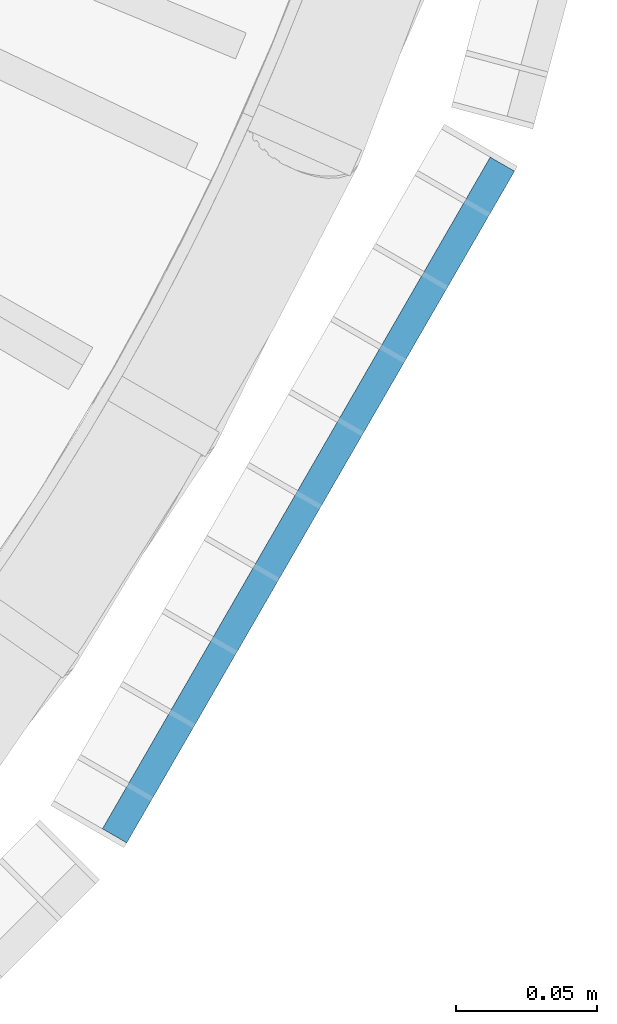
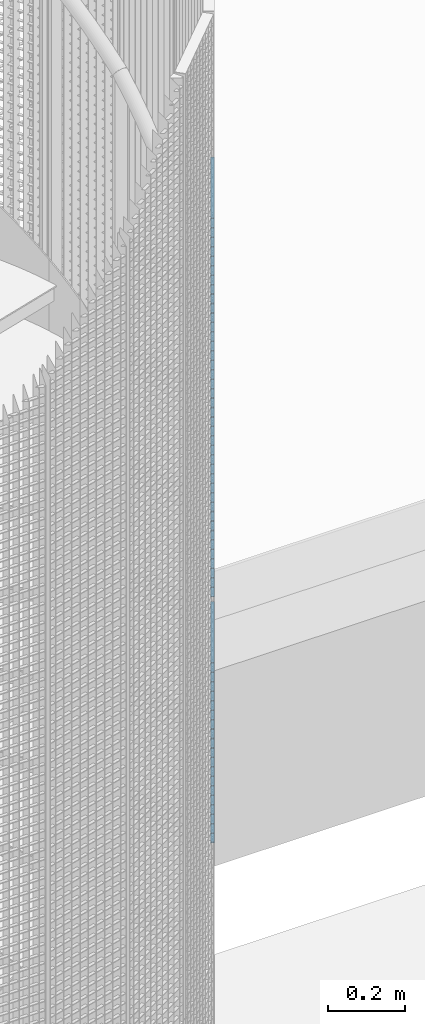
# One storey, part 222 of 1148: 61 beams, 1 element without a shape of its own.
"""IFC2X3 building model written with IfcOpenShell, lengths in millimetres."""

from ifc_helpers import new_model, si_unit, frame, origin_with_axes, origin_2d_with_axis, place, context, subcontext, project, spatial, rectangle, extrude, material, type_object, element, aggregate, save


model = new_model("IFC2X3")

# Units and contexts
model_context = context("Model", 3, precision=1e-05, world=origin_with_axes())
body_context = subcontext(model_context, "Body", "Model", "MODEL_VIEW")
ifc_project = project(units=[si_unit("LENGTHUNIT", "METRE", prefix="MILLI"), si_unit("AREAUNIT", "SQUARE_METRE"), si_unit("VOLUMEUNIT", "CUBIC_METRE"), si_unit("MASSUNIT", "GRAM", prefix="KILO"), si_unit("TIMEUNIT", "SECOND"), si_unit("PLANEANGLEUNIT", "RADIAN"), si_unit("SOLIDANGLEUNIT", "STERADIAN"), si_unit("THERMODYNAMICTEMPERATUREUNIT", "DEGREE_CELSIUS"), si_unit("LUMINOUSINTENSITYUNIT", "LUMEN")], contexts=[model_context])

# Site, building, storey
site_placement = place(None, origin_with_axes())
site = spatial("IfcSite", under=ifc_project, at=site_placement, Name="Undefined", CompositionType="ELEMENT")
building_placement = place(site_placement, origin_with_axes())
building = spatial("IfcBuilding", under=site, at=building_placement, Name="Undefined", CompositionType="ELEMENT")
storey_placement = place(building_placement, origin_with_axes())
storey = spatial("IfcBuildingStorey", under=building, at=storey_placement, Name="Undefined", CompositionType="ELEMENT", Elevation=0.0)

# Assembly, beams
assembly_placement = place(storey_placement, origin_with_axes())
assembly = element("IfcElementAssembly", 1, at=assembly_placement, inside=storey, Name="BORDURE", AssemblyPlace="NOTDEFINED", PredefinedType="NOTDEFINED")
ifc_material = material(Name="STEEL/S235JR")
beam_type = type_object("IfcBeamType", Name="PL2*10", PredefinedType="NOTDEFINED")
beam_1_placement = place(assembly_placement, frame((895.303964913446, -676.248044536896, 17340.0), z_axis=(0.866025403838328, -0.49999999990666, 0.0), x_axis=(0.49999999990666, 0.866025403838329, 0.0)))
beam_1 = element("IfcBeam", 2, at=beam_1_placement, type_object=beam_type, material=ifc_material, Name="ENTRETOISE", context=body_context, shape_type="SweptSolid", body=[
    extrude(rectangle(XDim=2.0, YDim=10.0, at=origin_2d_with_axis()), frame((275.999999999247, 9.09494701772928e-13, 1.53210777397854e-14), z_axis=(-1.0, 0.0, 0.0), x_axis=(0.0, -1.0, 0.0)), (0.0, 0.0, 1.0), 276.0),
])
beam_2_placement = place(assembly_placement, frame((895.303964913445, -676.248044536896, 17310.0), z_axis=(0.866025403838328, -0.49999999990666, 0.0), x_axis=(0.49999999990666, 0.866025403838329, 0.0)))
beam_2 = element("IfcBeam", 3, at=beam_2_placement, type_object=beam_type, material=ifc_material, Name="ENTRETOISE", context=body_context, shape_type="SweptSolid", body=[
    extrude(rectangle(XDim=2.0, YDim=10.0, at=origin_2d_with_axis()), frame((275.999999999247, 9.09494701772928e-13, 1.53210777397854e-14), z_axis=(-1.0, 0.0, 0.0), x_axis=(0.0, -1.0, 0.0)), (0.0, 0.0, 1.0), 276.0),
])
beam_3_placement = place(assembly_placement, frame((895.303964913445, -676.248044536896, 17280.0), z_axis=(0.866025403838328, -0.49999999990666, 0.0), x_axis=(0.49999999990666, 0.866025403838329, 0.0)))
beam_3 = element("IfcBeam", 4, at=beam_3_placement, type_object=beam_type, material=ifc_material, Name="ENTRETOISE", context=body_context, shape_type="SweptSolid", body=[
    extrude(rectangle(XDim=2.0, YDim=10.0, at=origin_2d_with_axis()), frame((275.999999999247, 9.09494701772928e-13, 1.53210777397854e-14), z_axis=(-1.0, 0.0, 0.0), x_axis=(0.0, -1.0, 0.0)), (0.0, 0.0, 1.0), 276.0),
])
beam_4_placement = place(assembly_placement, frame((895.303964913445, -676.248044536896, 17250.0), z_axis=(0.866025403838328, -0.49999999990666, 0.0), x_axis=(0.49999999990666, 0.866025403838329, 0.0)))
beam_4 = element("IfcBeam", 5, at=beam_4_placement, type_object=beam_type, material=ifc_material, Name="ENTRETOISE", context=body_context, shape_type="SweptSolid", body=[
    extrude(rectangle(XDim=2.0, YDim=10.0, at=origin_2d_with_axis()), frame((275.999999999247, 9.09494701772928e-13, 1.53210777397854e-14), z_axis=(-1.0, 0.0, 0.0), x_axis=(0.0, -1.0, 0.0)), (0.0, 0.0, 1.0), 276.0),
])
beam_5_placement = place(assembly_placement, frame((895.303964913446, -676.248044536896, 17220.0), z_axis=(0.866025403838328, -0.49999999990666, 0.0), x_axis=(0.49999999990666, 0.866025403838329, 0.0)))
beam_5 = element("IfcBeam", 6, at=beam_5_placement, type_object=beam_type, material=ifc_material, Name="ENTRETOISE", context=body_context, shape_type="SweptSolid", body=[
    extrude(rectangle(XDim=2.0, YDim=10.0, at=origin_2d_with_axis()), frame((275.999999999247, 9.09494701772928e-13, 1.53210777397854e-14), z_axis=(-1.0, 0.0, 0.0), x_axis=(0.0, -1.0, 0.0)), (0.0, 0.0, 1.0), 276.0),
])
beam_6_placement = place(assembly_placement, frame((895.303964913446, -676.248044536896, 17190.0), z_axis=(0.866025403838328, -0.49999999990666, 0.0), x_axis=(0.49999999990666, 0.866025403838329, 0.0)))
beam_6 = element("IfcBeam", 7, at=beam_6_placement, type_object=beam_type, material=ifc_material, Name="ENTRETOISE", context=body_context, shape_type="SweptSolid", body=[
    extrude(rectangle(XDim=2.0, YDim=10.0, at=origin_2d_with_axis()), frame((275.999999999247, 9.09494701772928e-13, 1.53210777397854e-14), z_axis=(-1.0, 0.0, 0.0), x_axis=(0.0, -1.0, 0.0)), (0.0, 0.0, 1.0), 276.0),
])
beam_7_placement = place(assembly_placement, frame((895.303964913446, -676.248044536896, 17160.0), z_axis=(0.866025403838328, -0.49999999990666, 0.0), x_axis=(0.49999999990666, 0.866025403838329, 0.0)))
beam_7 = element("IfcBeam", 8, at=beam_7_placement, type_object=beam_type, material=ifc_material, Name="ENTRETOISE", context=body_context, shape_type="SweptSolid", body=[
    extrude(rectangle(XDim=2.0, YDim=10.0, at=origin_2d_with_axis()), frame((275.999999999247, 9.09494701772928e-13, 1.53210777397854e-14), z_axis=(-1.0, 0.0, 0.0), x_axis=(0.0, -1.0, 0.0)), (0.0, 0.0, 1.0), 276.0),
])
beam_8_placement = place(assembly_placement, frame((895.303964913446, -676.248044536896, 17130.0), z_axis=(0.866025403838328, -0.49999999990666, 0.0), x_axis=(0.49999999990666, 0.866025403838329, 0.0)))
beam_8 = element("IfcBeam", 9, at=beam_8_placement, type_object=beam_type, material=ifc_material, Name="ENTRETOISE", context=body_context, shape_type="SweptSolid", body=[
    extrude(rectangle(XDim=2.0, YDim=10.0, at=origin_2d_with_axis()), frame((275.999999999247, 9.09494701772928e-13, 1.53210777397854e-14), z_axis=(-1.0, 0.0, 0.0), x_axis=(0.0, -1.0, 0.0)), (0.0, 0.0, 1.0), 276.0),
])
beam_9_placement = place(assembly_placement, frame((895.303964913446, -676.248044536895, 17100.0), z_axis=(0.866025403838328, -0.49999999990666, 0.0), x_axis=(0.49999999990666, 0.866025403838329, 0.0)))
beam_9 = element("IfcBeam", 10, at=beam_9_placement, type_object=beam_type, material=ifc_material, Name="ENTRETOISE", context=body_context, shape_type="SweptSolid", body=[
    extrude(rectangle(XDim=2.0, YDim=10.0, at=origin_2d_with_axis()), frame((275.999999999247, 9.09494701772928e-13, 1.53210777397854e-14), z_axis=(-1.0, 0.0, 0.0), x_axis=(0.0, -1.0, 0.0)), (0.0, 0.0, 1.0), 276.0),
])
beam_10_placement = place(assembly_placement, frame((895.303964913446, -676.248044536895, 17070.0), z_axis=(0.866025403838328, -0.49999999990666, 0.0), x_axis=(0.49999999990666, 0.866025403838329, 0.0)))
beam_10 = element("IfcBeam", 11, at=beam_10_placement, type_object=beam_type, material=ifc_material, Name="ENTRETOISE", context=body_context, shape_type="SweptSolid", body=[
    extrude(rectangle(XDim=2.0, YDim=10.0, at=origin_2d_with_axis()), frame((275.999999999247, 9.09494701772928e-13, 1.53210777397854e-14), z_axis=(-1.0, 0.0, 0.0), x_axis=(0.0, -1.0, 0.0)), (0.0, 0.0, 1.0), 276.0),
])
beam_11_placement = place(assembly_placement, frame((895.303964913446, -676.248044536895, 17040.0), z_axis=(0.866025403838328, -0.49999999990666, 0.0), x_axis=(0.49999999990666, 0.866025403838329, 0.0)))
beam_11 = element("IfcBeam", 12, at=beam_11_placement, type_object=beam_type, material=ifc_material, Name="ENTRETOISE", context=body_context, shape_type="SweptSolid", body=[
    extrude(rectangle(XDim=2.0, YDim=10.0, at=origin_2d_with_axis()), frame((275.999999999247, 9.09494701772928e-13, 1.53210777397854e-14), z_axis=(-1.0, 0.0, 0.0), x_axis=(0.0, -1.0, 0.0)), (0.0, 0.0, 1.0), 276.0),
])
beam_12_placement = place(assembly_placement, frame((895.303964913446, -676.248044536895, 17010.0), z_axis=(0.866025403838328, -0.49999999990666, 0.0), x_axis=(0.49999999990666, 0.866025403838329, 0.0)))
beam_12 = element("IfcBeam", 13, at=beam_12_placement, type_object=beam_type, material=ifc_material, Name="ENTRETOISE", context=body_context, shape_type="SweptSolid", body=[
    extrude(rectangle(XDim=2.0, YDim=10.0, at=origin_2d_with_axis()), frame((275.999999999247, 9.09494701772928e-13, 1.53210777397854e-14), z_axis=(-1.0, 0.0, 0.0), x_axis=(0.0, -1.0, 0.0)), (0.0, 0.0, 1.0), 276.0),
])
beam_13_placement = place(assembly_placement, frame((895.303964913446, -676.248044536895, 16980.0), z_axis=(0.866025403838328, -0.49999999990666, 0.0), x_axis=(0.49999999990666, 0.866025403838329, 0.0)))
beam_13 = element("IfcBeam", 14, at=beam_13_placement, type_object=beam_type, material=ifc_material, Name="ENTRETOISE", context=body_context, shape_type="SweptSolid", body=[
    extrude(rectangle(XDim=2.0, YDim=10.0, at=origin_2d_with_axis()), frame((275.999999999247, 9.09494701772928e-13, 1.53210777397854e-14), z_axis=(-1.0, 0.0, 0.0), x_axis=(0.0, -1.0, 0.0)), (0.0, 0.0, 1.0), 276.0),
])
beam_14_placement = place(assembly_placement, frame((895.303964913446, -676.248044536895, 16950.0), z_axis=(0.866025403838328, -0.49999999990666, 0.0), x_axis=(0.49999999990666, 0.866025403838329, 0.0)))
beam_14 = element("IfcBeam", 15, at=beam_14_placement, type_object=beam_type, material=ifc_material, Name="ENTRETOISE", context=body_context, shape_type="SweptSolid", body=[
    extrude(rectangle(XDim=2.0, YDim=10.0, at=origin_2d_with_axis()), frame((275.999999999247, 9.09494701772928e-13, 1.53210777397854e-14), z_axis=(-1.0, 0.0, 0.0), x_axis=(0.0, -1.0, 0.0)), (0.0, 0.0, 1.0), 276.0),
])
beam_15_placement = place(assembly_placement, frame((895.303964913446, -676.248044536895, 16920.0), z_axis=(0.866025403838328, -0.49999999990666, 0.0), x_axis=(0.49999999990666, 0.866025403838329, 0.0)))
beam_15 = element("IfcBeam", 16, at=beam_15_placement, type_object=beam_type, material=ifc_material, Name="ENTRETOISE", context=body_context, shape_type="SweptSolid", body=[
    extrude(rectangle(XDim=2.0, YDim=10.0, at=origin_2d_with_axis()), frame((275.999999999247, 9.09494701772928e-13, 1.53210777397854e-14), z_axis=(-1.0, 0.0, 0.0), x_axis=(0.0, -1.0, 0.0)), (0.0, 0.0, 1.0), 276.0),
])
beam_16_placement = place(assembly_placement, frame((895.303964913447, -676.248044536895, 16890.0), z_axis=(0.866025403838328, -0.49999999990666, 0.0), x_axis=(0.49999999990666, 0.866025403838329, 0.0)))
beam_16 = element("IfcBeam", 17, at=beam_16_placement, type_object=beam_type, material=ifc_material, Name="ENTRETOISE", context=body_context, shape_type="SweptSolid", body=[
    extrude(rectangle(XDim=2.0, YDim=10.0, at=origin_2d_with_axis()), frame((275.999999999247, 9.09494701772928e-13, 1.53210777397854e-14), z_axis=(-1.0, 0.0, 0.0), x_axis=(0.0, -1.0, 0.0)), (0.0, 0.0, 1.0), 276.0),
])
beam_17_placement = place(assembly_placement, frame((895.303964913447, -676.248044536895, 16860.0), z_axis=(0.866025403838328, -0.49999999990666, 0.0), x_axis=(0.49999999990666, 0.866025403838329, 0.0)))
beam_17 = element("IfcBeam", 18, at=beam_17_placement, type_object=beam_type, material=ifc_material, Name="ENTRETOISE", context=body_context, shape_type="SweptSolid", body=[
    extrude(rectangle(XDim=2.0, YDim=10.0, at=origin_2d_with_axis()), frame((275.999999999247, 9.09494701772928e-13, 1.53210777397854e-14), z_axis=(-1.0, 0.0, 0.0), x_axis=(0.0, -1.0, 0.0)), (0.0, 0.0, 1.0), 276.0),
])
beam_18_placement = place(assembly_placement, frame((895.303964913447, -676.248044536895, 16830.0), z_axis=(0.866025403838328, -0.49999999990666, 0.0), x_axis=(0.49999999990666, 0.866025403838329, 0.0)))
beam_18 = element("IfcBeam", 19, at=beam_18_placement, type_object=beam_type, material=ifc_material, Name="ENTRETOISE", context=body_context, shape_type="SweptSolid", body=[
    extrude(rectangle(XDim=2.0, YDim=10.0, at=origin_2d_with_axis()), frame((275.999999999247, 9.09494701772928e-13, 1.53210777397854e-14), z_axis=(-1.0, 0.0, 0.0), x_axis=(0.0, -1.0, 0.0)), (0.0, 0.0, 1.0), 276.0),
])
beam_19_placement = place(assembly_placement, frame((895.303964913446, -676.248044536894, 16800.0), z_axis=(0.866025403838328, -0.49999999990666, 0.0), x_axis=(0.49999999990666, 0.866025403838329, 0.0)))
beam_19 = element("IfcBeam", 20, at=beam_19_placement, type_object=beam_type, material=ifc_material, Name="ENTRETOISE", context=body_context, shape_type="SweptSolid", body=[
    extrude(rectangle(XDim=2.0, YDim=10.0, at=origin_2d_with_axis()), frame((275.999999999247, 9.09494701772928e-13, 1.53210777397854e-14), z_axis=(-1.0, 0.0, 0.0), x_axis=(0.0, -1.0, 0.0)), (0.0, 0.0, 1.0), 276.0),
])
beam_20_placement = place(assembly_placement, frame((895.303964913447, -676.248044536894, 16770.0), z_axis=(0.866025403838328, -0.49999999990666, 0.0), x_axis=(0.49999999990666, 0.866025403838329, 0.0)))
beam_20 = element("IfcBeam", 21, at=beam_20_placement, type_object=beam_type, material=ifc_material, Name="ENTRETOISE", context=body_context, shape_type="SweptSolid", body=[
    extrude(rectangle(XDim=2.0, YDim=10.0, at=origin_2d_with_axis()), frame((275.999999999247, 9.09494701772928e-13, 1.53210777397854e-14), z_axis=(-1.0, 0.0, 0.0), x_axis=(0.0, -1.0, 0.0)), (0.0, 0.0, 1.0), 276.0),
])
beam_21_placement = place(assembly_placement, frame((895.303964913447, -676.248044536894, 16740.0), z_axis=(0.866025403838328, -0.49999999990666, 0.0), x_axis=(0.49999999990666, 0.866025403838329, 0.0)))
beam_21 = element("IfcBeam", 22, at=beam_21_placement, type_object=beam_type, material=ifc_material, Name="ENTRETOISE", context=body_context, shape_type="SweptSolid", body=[
    extrude(rectangle(XDim=2.0, YDim=10.0, at=origin_2d_with_axis()), frame((275.999999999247, 9.09494701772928e-13, 1.53210777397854e-14), z_axis=(-1.0, 0.0, 0.0), x_axis=(0.0, -1.0, 0.0)), (0.0, 0.0, 1.0), 276.0),
])
beam_22_placement = place(assembly_placement, frame((895.303964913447, -676.248044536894, 16710.0), z_axis=(0.866025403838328, -0.49999999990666, 0.0), x_axis=(0.49999999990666, 0.866025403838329, 0.0)))
beam_22 = element("IfcBeam", 23, at=beam_22_placement, type_object=beam_type, material=ifc_material, Name="ENTRETOISE", context=body_context, shape_type="SweptSolid", body=[
    extrude(rectangle(XDim=2.0, YDim=10.0, at=origin_2d_with_axis()), frame((275.999999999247, 9.09494701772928e-13, 1.53210777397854e-14), z_axis=(-1.0, 0.0, 0.0), x_axis=(0.0, -1.0, 0.0)), (0.0, 0.0, 1.0), 276.0),
])
beam_23_placement = place(assembly_placement, frame((895.303964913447, -676.248044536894, 16680.0), z_axis=(0.866025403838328, -0.49999999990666, 0.0), x_axis=(0.49999999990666, 0.866025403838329, 0.0)))
beam_23 = element("IfcBeam", 24, at=beam_23_placement, type_object=beam_type, material=ifc_material, Name="ENTRETOISE", context=body_context, shape_type="SweptSolid", body=[
    extrude(rectangle(XDim=2.0, YDim=10.0, at=origin_2d_with_axis()), frame((275.999999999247, 9.09494701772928e-13, 1.53210777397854e-14), z_axis=(-1.0, 0.0, 0.0), x_axis=(0.0, -1.0, 0.0)), (0.0, 0.0, 1.0), 276.0),
])
beam_24_placement = place(assembly_placement, frame((895.303964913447, -676.248044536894, 16650.0), z_axis=(0.866025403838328, -0.49999999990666, 0.0), x_axis=(0.49999999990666, 0.866025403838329, 0.0)))
beam_24 = element("IfcBeam", 25, at=beam_24_placement, type_object=beam_type, material=ifc_material, Name="ENTRETOISE", context=body_context, shape_type="SweptSolid", body=[
    extrude(rectangle(XDim=2.0, YDim=10.0, at=origin_2d_with_axis()), frame((275.999999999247, 9.09494701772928e-13, 1.53210777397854e-14), z_axis=(-1.0, 0.0, 0.0), x_axis=(0.0, -1.0, 0.0)), (0.0, 0.0, 1.0), 276.0),
])
beam_25_placement = place(assembly_placement, frame((895.303964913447, -676.248044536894, 16620.0), z_axis=(0.866025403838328, -0.49999999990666, 0.0), x_axis=(0.49999999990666, 0.866025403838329, 0.0)))
beam_25 = element("IfcBeam", 26, at=beam_25_placement, type_object=beam_type, material=ifc_material, Name="ENTRETOISE", context=body_context, shape_type="SweptSolid", body=[
    extrude(rectangle(XDim=2.0, YDim=10.0, at=origin_2d_with_axis()), frame((275.999999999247, 9.09494701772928e-13, 1.53210777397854e-14), z_axis=(-1.0, 0.0, 0.0), x_axis=(0.0, -1.0, 0.0)), (0.0, 0.0, 1.0), 276.0),
])
beam_26_placement = place(assembly_placement, frame((895.303964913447, -676.248044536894, 16590.0), z_axis=(0.866025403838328, -0.49999999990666, 0.0), x_axis=(0.49999999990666, 0.866025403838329, 0.0)))
beam_26 = element("IfcBeam", 27, at=beam_26_placement, type_object=beam_type, material=ifc_material, Name="ENTRETOISE", context=body_context, shape_type="SweptSolid", body=[
    extrude(rectangle(XDim=2.0, YDim=10.0, at=origin_2d_with_axis()), frame((275.999999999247, 9.09494701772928e-13, 1.53210777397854e-14), z_axis=(-1.0, 0.0, 0.0), x_axis=(0.0, -1.0, 0.0)), (0.0, 0.0, 1.0), 276.0),
])
beam_27_placement = place(assembly_placement, frame((895.303964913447, -676.248044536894, 16560.0), z_axis=(0.866025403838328, -0.49999999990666, 0.0), x_axis=(0.49999999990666, 0.866025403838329, 0.0)))
beam_27 = element("IfcBeam", 28, at=beam_27_placement, type_object=beam_type, material=ifc_material, Name="ENTRETOISE", context=body_context, shape_type="SweptSolid", body=[
    extrude(rectangle(XDim=2.0, YDim=10.0, at=origin_2d_with_axis()), frame((275.999999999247, 9.09494701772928e-13, 1.53210777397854e-14), z_axis=(-1.0, 0.0, 0.0), x_axis=(0.0, -1.0, 0.0)), (0.0, 0.0, 1.0), 276.0),
])
beam_28_placement = place(assembly_placement, frame((895.303964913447, -676.248044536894, 16530.0), z_axis=(0.866025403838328, -0.49999999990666, 0.0), x_axis=(0.49999999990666, 0.866025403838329, 0.0)))
beam_28 = element("IfcBeam", 29, at=beam_28_placement, type_object=beam_type, material=ifc_material, Name="ENTRETOISE", context=body_context, shape_type="SweptSolid", body=[
    extrude(rectangle(XDim=2.0, YDim=10.0, at=origin_2d_with_axis()), frame((275.999999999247, 9.09494701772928e-13, 1.53210777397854e-14), z_axis=(-1.0, 0.0, 0.0), x_axis=(0.0, -1.0, 0.0)), (0.0, 0.0, 1.0), 276.0),
])
beam_29_placement = place(assembly_placement, frame((895.303964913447, -676.248044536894, 16500.0), z_axis=(0.866025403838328, -0.49999999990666, 0.0), x_axis=(0.49999999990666, 0.866025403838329, 0.0)))
beam_29 = element("IfcBeam", 30, at=beam_29_placement, type_object=beam_type, material=ifc_material, Name="ENTRETOISE", context=body_context, shape_type="SweptSolid", body=[
    extrude(rectangle(XDim=2.0, YDim=10.0, at=origin_2d_with_axis()), frame((275.999999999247, 9.09494701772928e-13, 1.53210777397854e-14), z_axis=(-1.0, 0.0, 0.0), x_axis=(0.0, -1.0, 0.0)), (0.0, 0.0, 1.0), 276.0),
])
beam_30_placement = place(assembly_placement, frame((895.303964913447, -676.248044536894, 16470.0), z_axis=(0.866025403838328, -0.49999999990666, 0.0), x_axis=(0.49999999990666, 0.866025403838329, 0.0)))
beam_30 = element("IfcBeam", 31, at=beam_30_placement, type_object=beam_type, material=ifc_material, Name="ENTRETOISE", context=body_context, shape_type="SweptSolid", body=[
    extrude(rectangle(XDim=2.0, YDim=10.0, at=origin_2d_with_axis()), frame((275.999999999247, 9.09494701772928e-13, 1.53210777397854e-14), z_axis=(-1.0, 0.0, 0.0), x_axis=(0.0, -1.0, 0.0)), (0.0, 0.0, 1.0), 276.0),
])
beam_31_placement = place(assembly_placement, frame((895.303964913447, -676.248044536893, 16440.0), z_axis=(0.866025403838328, -0.49999999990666, 0.0), x_axis=(0.49999999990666, 0.866025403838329, 0.0)))
beam_31 = element("IfcBeam", 32, at=beam_31_placement, type_object=beam_type, material=ifc_material, Name="ENTRETOISE", context=body_context, shape_type="SweptSolid", body=[
    extrude(rectangle(XDim=2.0, YDim=10.0, at=origin_2d_with_axis()), frame((275.999999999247, 9.09494701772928e-13, 1.53210777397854e-14), z_axis=(-1.0, 0.0, 0.0), x_axis=(0.0, -1.0, 0.0)), (0.0, 0.0, 1.0), 276.0),
])
beam_32_placement = place(assembly_placement, frame((895.303964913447, -676.248044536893, 16410.0), z_axis=(0.866025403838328, -0.49999999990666, 0.0), x_axis=(0.49999999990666, 0.866025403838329, 0.0)))
beam_32 = element("IfcBeam", 33, at=beam_32_placement, type_object=beam_type, material=ifc_material, Name="ENTRETOISE", context=body_context, shape_type="SweptSolid", body=[
    extrude(rectangle(XDim=2.0, YDim=10.0, at=origin_2d_with_axis()), frame((275.999999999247, 9.09494701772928e-13, 1.53210777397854e-14), z_axis=(-1.0, 0.0, 0.0), x_axis=(0.0, -1.0, 0.0)), (0.0, 0.0, 1.0), 276.0),
])
beam_33_placement = place(assembly_placement, frame((895.303964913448, -676.248044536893, 16380.0), z_axis=(0.866025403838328, -0.49999999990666, 0.0), x_axis=(0.49999999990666, 0.866025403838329, 0.0)))
beam_33 = element("IfcBeam", 34, at=beam_33_placement, type_object=beam_type, material=ifc_material, Name="ENTRETOISE", context=body_context, shape_type="SweptSolid", body=[
    extrude(rectangle(XDim=2.0, YDim=10.0, at=origin_2d_with_axis()), frame((275.999999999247, 9.09494701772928e-13, 1.53210777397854e-14), z_axis=(-1.0, 0.0, 0.0), x_axis=(0.0, -1.0, 0.0)), (0.0, 0.0, 1.0), 276.0),
])
beam_34_placement = place(assembly_placement, frame((895.303964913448, -676.248044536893, 16350.0), z_axis=(0.866025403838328, -0.49999999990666, 0.0), x_axis=(0.49999999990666, 0.866025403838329, 0.0)))
beam_34 = element("IfcBeam", 35, at=beam_34_placement, type_object=beam_type, material=ifc_material, Name="ENTRETOISE", context=body_context, shape_type="SweptSolid", body=[
    extrude(rectangle(XDim=2.0, YDim=10.0, at=origin_2d_with_axis()), frame((275.999999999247, 9.09494701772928e-13, 1.53210777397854e-14), z_axis=(-1.0, 0.0, 0.0), x_axis=(0.0, -1.0, 0.0)), (0.0, 0.0, 1.0), 276.0),
])
beam_35_placement = place(assembly_placement, frame((895.303964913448, -676.248044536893, 16320.0), z_axis=(0.866025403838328, -0.49999999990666, 0.0), x_axis=(0.49999999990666, 0.866025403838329, 0.0)))
beam_35 = element("IfcBeam", 36, at=beam_35_placement, type_object=beam_type, material=ifc_material, Name="ENTRETOISE", context=body_context, shape_type="SweptSolid", body=[
    extrude(rectangle(XDim=2.0, YDim=10.0, at=origin_2d_with_axis()), frame((275.999999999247, 9.09494701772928e-13, 1.53210777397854e-14), z_axis=(-1.0, 0.0, 0.0), x_axis=(0.0, -1.0, 0.0)), (0.0, 0.0, 1.0), 276.0),
])
beam_36_placement = place(assembly_placement, frame((895.303964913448, -676.248044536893, 16290.0), z_axis=(0.866025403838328, -0.49999999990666, 0.0), x_axis=(0.49999999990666, 0.866025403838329, 0.0)))
beam_36 = element("IfcBeam", 37, at=beam_36_placement, type_object=beam_type, material=ifc_material, Name="ENTRETOISE", context=body_context, shape_type="SweptSolid", body=[
    extrude(rectangle(XDim=2.0, YDim=10.0, at=origin_2d_with_axis()), frame((275.999999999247, 9.09494701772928e-13, 1.53210777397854e-14), z_axis=(-1.0, 0.0, 0.0), x_axis=(0.0, -1.0, 0.0)), (0.0, 0.0, 1.0), 276.0),
])
beam_37_placement = place(assembly_placement, frame((895.303964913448, -676.248044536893, 16260.0), z_axis=(0.866025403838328, -0.49999999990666, 0.0), x_axis=(0.49999999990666, 0.866025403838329, 0.0)))
beam_37 = element("IfcBeam", 38, at=beam_37_placement, type_object=beam_type, material=ifc_material, Name="ENTRETOISE", context=body_context, shape_type="SweptSolid", body=[
    extrude(rectangle(XDim=2.0, YDim=10.0, at=origin_2d_with_axis()), frame((275.999999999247, 9.09494701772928e-13, 1.53210777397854e-14), z_axis=(-1.0, 0.0, 0.0), x_axis=(0.0, -1.0, 0.0)), (0.0, 0.0, 1.0), 276.0),
])
beam_38_placement = place(assembly_placement, frame((895.303964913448, -676.248044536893, 16230.0), z_axis=(0.866025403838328, -0.49999999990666, 0.0), x_axis=(0.49999999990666, 0.866025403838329, 0.0)))
beam_38 = element("IfcBeam", 39, at=beam_38_placement, type_object=beam_type, material=ifc_material, Name="ENTRETOISE", context=body_context, shape_type="SweptSolid", body=[
    extrude(rectangle(XDim=2.0, YDim=10.0, at=origin_2d_with_axis()), frame((275.999999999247, 9.09494701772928e-13, 1.53210777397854e-14), z_axis=(-1.0, 0.0, 0.0), x_axis=(0.0, -1.0, 0.0)), (0.0, 0.0, 1.0), 276.0),
])
beam_39_placement = place(assembly_placement, frame((895.303964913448, -676.248044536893, 16200.0), z_axis=(0.866025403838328, -0.49999999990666, 0.0), x_axis=(0.49999999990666, 0.866025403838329, 0.0)))
beam_39 = element("IfcBeam", 40, at=beam_39_placement, type_object=beam_type, material=ifc_material, Name="ENTRETOISE", context=body_context, shape_type="SweptSolid", body=[
    extrude(rectangle(XDim=2.0, YDim=10.0, at=origin_2d_with_axis()), frame((275.999999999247, 9.09494701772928e-13, 1.53210777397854e-14), z_axis=(-1.0, 0.0, 0.0), x_axis=(0.0, -1.0, 0.0)), (0.0, 0.0, 1.0), 276.0),
])
beam_40_placement = place(assembly_placement, frame((895.303964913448, -676.248044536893, 16170.0), z_axis=(0.866025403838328, -0.49999999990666, 0.0), x_axis=(0.49999999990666, 0.866025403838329, 0.0)))
beam_40 = element("IfcBeam", 41, at=beam_40_placement, type_object=beam_type, material=ifc_material, Name="ENTRETOISE", context=body_context, shape_type="SweptSolid", body=[
    extrude(rectangle(XDim=2.0, YDim=10.0, at=origin_2d_with_axis()), frame((275.999999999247, 9.09494701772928e-13, 1.53210777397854e-14), z_axis=(-1.0, 0.0, 0.0), x_axis=(0.0, -1.0, 0.0)), (0.0, 0.0, 1.0), 276.0),
])
beam_41_placement = place(assembly_placement, frame((895.303964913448, -676.248044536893, 16140.0), z_axis=(0.866025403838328, -0.49999999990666, 0.0), x_axis=(0.49999999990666, 0.866025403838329, 0.0)))
beam_41 = element("IfcBeam", 42, at=beam_41_placement, type_object=beam_type, material=ifc_material, Name="ENTRETOISE", context=body_context, shape_type="SweptSolid", body=[
    extrude(rectangle(XDim=2.0, YDim=10.0, at=origin_2d_with_axis()), frame((275.999999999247, 9.09494701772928e-13, 1.53210777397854e-14), z_axis=(-1.0, 0.0, 0.0), x_axis=(0.0, -1.0, 0.0)), (0.0, 0.0, 1.0), 276.0),
])
beam_42_placement = place(assembly_placement, frame((895.303964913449, -676.248044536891, 15720.0), z_axis=(0.866025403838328, -0.49999999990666, 0.0), x_axis=(0.49999999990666, 0.866025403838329, 0.0)))
beam_42 = element("IfcBeam", 43, at=beam_42_placement, type_object=beam_type, material=ifc_material, Name="ENTRETOISE", context=body_context, shape_type="SweptSolid", body=[
    extrude(rectangle(XDim=2.0, YDim=10.0, at=origin_2d_with_axis()), frame((275.999999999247, 9.09494701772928e-13, 1.53210777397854e-14), z_axis=(-1.0, 0.0, 0.0), x_axis=(0.0, -1.0, 0.0)), (0.0, 0.0, 1.0), 276.0),
])
beam_43_placement = place(assembly_placement, frame((895.303964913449, -676.248044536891, 15690.0), z_axis=(0.866025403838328, -0.49999999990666, 0.0), x_axis=(0.49999999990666, 0.866025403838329, 0.0)))
beam_43 = element("IfcBeam", 44, at=beam_43_placement, type_object=beam_type, material=ifc_material, Name="ENTRETOISE", context=body_context, shape_type="SweptSolid", body=[
    extrude(rectangle(XDim=2.0, YDim=10.0, at=origin_2d_with_axis()), frame((275.999999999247, 9.09494701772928e-13, 1.53210777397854e-14), z_axis=(-1.0, 0.0, 0.0), x_axis=(0.0, -1.0, 0.0)), (0.0, 0.0, 1.0), 276.0),
])
beam_44_placement = place(assembly_placement, frame((895.303964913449, -676.248044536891, 15750.0), z_axis=(0.866025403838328, -0.49999999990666, 0.0), x_axis=(0.49999999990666, 0.866025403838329, 0.0)))
beam_44 = element("IfcBeam", 45, at=beam_44_placement, type_object=beam_type, material=ifc_material, Name="ENTRETOISE", context=body_context, shape_type="SweptSolid", body=[
    extrude(rectangle(XDim=2.0, YDim=10.0, at=origin_2d_with_axis()), frame((275.999999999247, 9.09494701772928e-13, 1.53210777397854e-14), z_axis=(-1.0, 0.0, 0.0), x_axis=(0.0, -1.0, 0.0)), (0.0, 0.0, 1.0), 276.0),
])
beam_45_placement = place(assembly_placement, frame((895.303964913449, -676.248044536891, 15660.0), z_axis=(0.866025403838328, -0.49999999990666, 0.0), x_axis=(0.49999999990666, 0.866025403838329, 0.0)))
beam_45 = element("IfcBeam", 46, at=beam_45_placement, type_object=beam_type, material=ifc_material, Name="ENTRETOISE", context=body_context, shape_type="SweptSolid", body=[
    extrude(rectangle(XDim=2.0, YDim=10.0, at=origin_2d_with_axis()), frame((275.999999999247, 9.09494701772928e-13, 1.53210777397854e-14), z_axis=(-1.0, 0.0, 0.0), x_axis=(0.0, -1.0, 0.0)), (0.0, 0.0, 1.0), 276.0),
])
beam_46_placement = place(assembly_placement, frame((895.303964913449, -676.248044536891, 15630.0), z_axis=(0.866025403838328, -0.49999999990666, 0.0), x_axis=(0.49999999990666, 0.866025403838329, 0.0)))
beam_46 = element("IfcBeam", 47, at=beam_46_placement, type_object=beam_type, material=ifc_material, Name="ENTRETOISE", context=body_context, shape_type="SweptSolid", body=[
    extrude(rectangle(XDim=2.0, YDim=10.0, at=origin_2d_with_axis()), frame((275.999999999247, 9.09494701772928e-13, 1.53210777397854e-14), z_axis=(-1.0, 0.0, 0.0), x_axis=(0.0, -1.0, 0.0)), (0.0, 0.0, 1.0), 276.0),
])
beam_47_placement = place(assembly_placement, frame((895.303964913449, -676.248044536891, 15780.0), z_axis=(0.866025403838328, -0.49999999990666, 0.0), x_axis=(0.49999999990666, 0.866025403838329, 0.0)))
beam_47 = element("IfcBeam", 48, at=beam_47_placement, type_object=beam_type, material=ifc_material, Name="ENTRETOISE", context=body_context, shape_type="SweptSolid", body=[
    extrude(rectangle(XDim=2.0, YDim=10.0, at=origin_2d_with_axis()), frame((275.999999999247, 9.09494701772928e-13, 1.53210777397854e-14), z_axis=(-1.0, 0.0, 0.0), x_axis=(0.0, -1.0, 0.0)), (0.0, 0.0, 1.0), 276.0),
])
beam_48_placement = place(assembly_placement, frame((895.303964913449, -676.248044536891, 15600.0), z_axis=(0.866025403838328, -0.49999999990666, 0.0), x_axis=(0.49999999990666, 0.866025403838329, 0.0)))
beam_48 = element("IfcBeam", 49, at=beam_48_placement, type_object=beam_type, material=ifc_material, Name="ENTRETOISE", context=body_context, shape_type="SweptSolid", body=[
    extrude(rectangle(XDim=2.0, YDim=10.0, at=origin_2d_with_axis()), frame((275.999999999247, 9.09494701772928e-13, 1.53210777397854e-14), z_axis=(-1.0, 0.0, 0.0), x_axis=(0.0, -1.0, 0.0)), (0.0, 0.0, 1.0), 276.0),
])
beam_49_placement = place(assembly_placement, frame((895.303964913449, -676.248044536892, 15810.0), z_axis=(0.866025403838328, -0.49999999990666, 0.0), x_axis=(0.49999999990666, 0.866025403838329, 0.0)))
beam_49 = element("IfcBeam", 50, at=beam_49_placement, type_object=beam_type, material=ifc_material, Name="ENTRETOISE", context=body_context, shape_type="SweptSolid", body=[
    extrude(rectangle(XDim=2.0, YDim=10.0, at=origin_2d_with_axis()), frame((275.999999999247, 9.09494701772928e-13, 1.53210777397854e-14), z_axis=(-1.0, 0.0, 0.0), x_axis=(0.0, -1.0, 0.0)), (0.0, 0.0, 1.0), 276.0),
])
beam_50_placement = place(assembly_placement, frame((895.30396491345, -676.248044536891, 15570.0), z_axis=(0.866025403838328, -0.49999999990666, 0.0), x_axis=(0.49999999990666, 0.866025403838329, 0.0)))
beam_50 = element("IfcBeam", 51, at=beam_50_placement, type_object=beam_type, material=ifc_material, Name="ENTRETOISE", context=body_context, shape_type="SweptSolid", body=[
    extrude(rectangle(XDim=2.0, YDim=10.0, at=origin_2d_with_axis()), frame((275.999999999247, 9.09494701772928e-13, 1.53210777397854e-14), z_axis=(-1.0, 0.0, 0.0), x_axis=(0.0, -1.0, 0.0)), (0.0, 0.0, 1.0), 276.0),
])
beam_51_placement = place(assembly_placement, frame((895.30396491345, -676.248044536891, 15540.0), z_axis=(0.866025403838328, -0.49999999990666, 0.0), x_axis=(0.49999999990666, 0.866025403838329, 0.0)))
beam_51 = element("IfcBeam", 52, at=beam_51_placement, type_object=beam_type, material=ifc_material, Name="ENTRETOISE", context=body_context, shape_type="SweptSolid", body=[
    extrude(rectangle(XDim=2.0, YDim=10.0, at=origin_2d_with_axis()), frame((275.999999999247, 9.09494701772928e-13, 1.53210777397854e-14), z_axis=(-1.0, 0.0, 0.0), x_axis=(0.0, -1.0, 0.0)), (0.0, 0.0, 1.0), 276.0),
])
beam_52_placement = place(assembly_placement, frame((895.303964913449, -676.248044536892, 15840.0), z_axis=(0.866025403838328, -0.49999999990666, 0.0), x_axis=(0.49999999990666, 0.866025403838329, 0.0)))
beam_52 = element("IfcBeam", 53, at=beam_52_placement, type_object=beam_type, material=ifc_material, Name="ENTRETOISE", context=body_context, shape_type="SweptSolid", body=[
    extrude(rectangle(XDim=2.0, YDim=10.0, at=origin_2d_with_axis()), frame((275.999999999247, 9.09494701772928e-13, 1.53210777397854e-14), z_axis=(-1.0, 0.0, 0.0), x_axis=(0.0, -1.0, 0.0)), (0.0, 0.0, 1.0), 276.0),
])
beam_53_placement = place(assembly_placement, frame((895.303964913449, -676.248044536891, 15510.0), z_axis=(0.866025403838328, -0.49999999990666, 0.0), x_axis=(0.49999999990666, 0.866025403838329, 0.0)))
beam_53 = element("IfcBeam", 54, at=beam_53_placement, type_object=beam_type, material=ifc_material, Name="ENTRETOISE", context=body_context, shape_type="SweptSolid", body=[
    extrude(rectangle(XDim=2.0, YDim=10.0, at=origin_2d_with_axis()), frame((275.999999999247, 9.09494701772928e-13, 1.53210777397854e-14), z_axis=(-1.0, 0.0, 0.0), x_axis=(0.0, -1.0, 0.0)), (0.0, 0.0, 1.0), 276.0),
])
beam_54_placement = place(assembly_placement, frame((895.303964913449, -676.248044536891, 15480.0), z_axis=(0.866025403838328, -0.49999999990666, 0.0), x_axis=(0.49999999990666, 0.866025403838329, 0.0)))
beam_54 = element("IfcBeam", 55, at=beam_54_placement, type_object=beam_type, material=ifc_material, Name="ENTRETOISE", context=body_context, shape_type="SweptSolid", body=[
    extrude(rectangle(XDim=2.0, YDim=10.0, at=origin_2d_with_axis()), frame((275.999999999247, 9.09494701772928e-13, 1.53210777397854e-14), z_axis=(-1.0, 0.0, 0.0), x_axis=(0.0, -1.0, 0.0)), (0.0, 0.0, 1.0), 276.0),
])
beam_55_placement = place(assembly_placement, frame((895.303964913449, -676.248044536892, 15870.0), z_axis=(0.866025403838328, -0.49999999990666, 0.0), x_axis=(0.49999999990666, 0.866025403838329, 0.0)))
beam_55 = element("IfcBeam", 56, at=beam_55_placement, type_object=beam_type, material=ifc_material, Name="ENTRETOISE", context=body_context, shape_type="SweptSolid", body=[
    extrude(rectangle(XDim=2.0, YDim=10.0, at=origin_2d_with_axis()), frame((275.999999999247, 9.09494701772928e-13, 1.53210777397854e-14), z_axis=(-1.0, 0.0, 0.0), x_axis=(0.0, -1.0, 0.0)), (0.0, 0.0, 1.0), 276.0),
])
beam_56_placement = place(assembly_placement, frame((895.30396491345, -676.248044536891, 15450.0), z_axis=(0.866025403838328, -0.49999999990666, 0.0), x_axis=(0.49999999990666, 0.866025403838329, 0.0)))
beam_56 = element("IfcBeam", 57, at=beam_56_placement, type_object=beam_type, material=ifc_material, Name="ENTRETOISE", context=body_context, shape_type="SweptSolid", body=[
    extrude(rectangle(XDim=2.0, YDim=10.0, at=origin_2d_with_axis()), frame((275.999999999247, 9.09494701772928e-13, 1.53210777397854e-14), z_axis=(-1.0, 0.0, 0.0), x_axis=(0.0, -1.0, 0.0)), (0.0, 0.0, 1.0), 276.0),
])
beam_57_placement = place(assembly_placement, frame((895.30396491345, -676.24804453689, 15420.0), z_axis=(0.866025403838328, -0.49999999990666, 0.0), x_axis=(0.49999999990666, 0.866025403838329, 0.0)))
beam_57 = element("IfcBeam", 58, at=beam_57_placement, type_object=beam_type, material=ifc_material, Name="ENTRETOISE", context=body_context, shape_type="SweptSolid", body=[
    extrude(rectangle(XDim=2.0, YDim=10.0, at=origin_2d_with_axis()), frame((275.999999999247, 9.09494701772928e-13, 1.53210777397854e-14), z_axis=(-1.0, 0.0, 0.0), x_axis=(0.0, -1.0, 0.0)), (0.0, 0.0, 1.0), 276.0),
])
beam_58_placement = place(assembly_placement, frame((895.303964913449, -676.248044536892, 15900.0), z_axis=(0.866025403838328, -0.49999999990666, 0.0), x_axis=(0.49999999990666, 0.866025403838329, 0.0)))
beam_58 = element("IfcBeam", 59, at=beam_58_placement, type_object=beam_type, material=ifc_material, Name="ENTRETOISE", context=body_context, shape_type="SweptSolid", body=[
    extrude(rectangle(XDim=2.0, YDim=10.0, at=origin_2d_with_axis()), frame((275.999999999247, 9.09494701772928e-13, 1.53210777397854e-14), z_axis=(-1.0, 0.0, 0.0), x_axis=(0.0, -1.0, 0.0)), (0.0, 0.0, 1.0), 276.0),
])
beam_59_placement = place(assembly_placement, frame((895.30396491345, -676.24804453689, 15390.0), z_axis=(0.866025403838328, -0.49999999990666, 0.0), x_axis=(0.49999999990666, 0.866025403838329, 0.0)))
beam_59 = element("IfcBeam", 60, at=beam_59_placement, type_object=beam_type, material=ifc_material, Name="ENTRETOISE", context=body_context, shape_type="SweptSolid", body=[
    extrude(rectangle(XDim=2.0, YDim=10.0, at=origin_2d_with_axis()), frame((275.999999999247, 9.09494701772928e-13, 1.53210777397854e-14), z_axis=(-1.0, 0.0, 0.0), x_axis=(0.0, -1.0, 0.0)), (0.0, 0.0, 1.0), 276.0),
])
beam_60_placement = place(assembly_placement, frame((895.303964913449, -676.248044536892, 15930.0), z_axis=(0.866025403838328, -0.49999999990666, 0.0), x_axis=(0.49999999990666, 0.866025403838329, 0.0)))
beam_60 = element("IfcBeam", 61, at=beam_60_placement, type_object=beam_type, material=ifc_material, Name="ENTRETOISE", context=body_context, shape_type="SweptSolid", body=[
    extrude(rectangle(XDim=2.0, YDim=10.0, at=origin_2d_with_axis()), frame((275.999999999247, 9.09494701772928e-13, 1.53210777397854e-14), z_axis=(-1.0, 0.0, 0.0), x_axis=(0.0, -1.0, 0.0)), (0.0, 0.0, 1.0), 276.0),
])
beam_61_placement = place(assembly_placement, frame((895.30396491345, -676.24804453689, 15360.0), z_axis=(0.866025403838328, -0.49999999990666, 0.0), x_axis=(0.49999999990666, 0.866025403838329, 0.0)))
beam_61 = element("IfcBeam", 62, at=beam_61_placement, type_object=beam_type, material=ifc_material, Name="ENTRETOISE", context=body_context, shape_type="SweptSolid", body=[
    extrude(rectangle(XDim=2.0, YDim=10.0, at=origin_2d_with_axis()), frame((275.999999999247, 9.09494701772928e-13, 1.53210777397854e-14), z_axis=(-1.0, 0.0, 0.0), x_axis=(0.0, -1.0, 0.0)), (0.0, 0.0, 1.0), 276.0),
])
aggregate(assembly, [beam_1, beam_2, beam_3, beam_4, beam_5, beam_6, beam_7, beam_8, beam_9, beam_10, beam_11, beam_12, beam_13, beam_14, beam_15, beam_16, beam_17, beam_18, beam_19, beam_20, beam_21, beam_22, beam_23, beam_24, beam_25, beam_26, beam_27, beam_28, beam_29, beam_30, beam_31, beam_32, beam_33, beam_34, beam_35, beam_36, beam_37, beam_38, beam_39, beam_40, beam_41, beam_42, beam_43, beam_44, beam_45, beam_46, beam_47, beam_48, beam_49, beam_50, beam_51, beam_52, beam_53, beam_54, beam_55, beam_56, beam_57, beam_58, beam_59, beam_60, beam_61])

save(model, "model.ifc")
